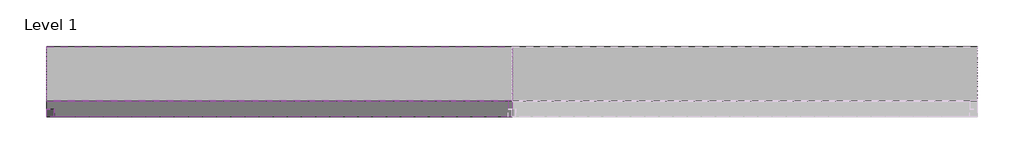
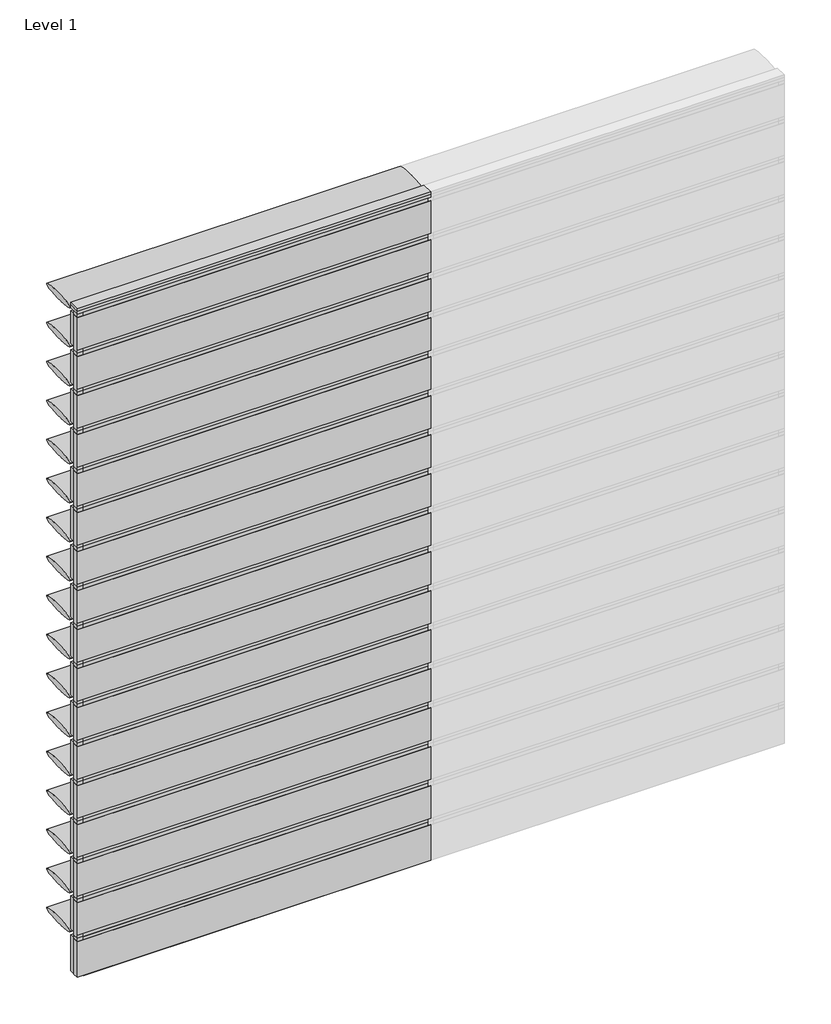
# One storey, part 1 of 2: 42 members, 36 plates.
"""IFC4 building model written with IfcOpenShell, lengths in millimetres."""

from ifc_helpers import new_model, si_unit, origin, place, context, project, spatial, transform, mapped, element, save
from components import rectangular_mullion_7b7f291e, rectangular_mullion_795f5a7c, empty_system_panel_empty_44c4d881, empty_system_panel_empty_7f9a0b37, empty_system_panel_empty_ea27b686, empty_system_panel_empty_a0d4dec4, empty_system_panel_empty_5b0c2a42

model = new_model("IFC4")

# Units and contexts
model_context = context("Model", 3, world=origin())
ifc_project = project(units=[si_unit("LENGTHUNIT", "METRE", prefix="MILLI")], contexts=[model_context])

# Site, building, storey
site = spatial("IfcSite", under=ifc_project)
building = spatial("IfcBuilding", under=site)
storey = spatial("IfcBuildingStorey", under=building, Name="Level 1", Elevation=0.0)

# Members
placement = place(None, origin())
rectangular_mullion_shape = rectangular_mullion_7b7f291e(model_context)
element("IfcMember", 1, ObjectType="Rectangular Mullion : RSen_21_CWM_blade - 350 ellips - 0°_gen_duco projects", at=placement, inside=storey, context=model_context, shape_type="MappedRepresentation", body=[
    mapped(rectangular_mullion_shape, transform((3000.0, 3000.0, 350.0), x_axis=(0.0, 0.0, 1.0), y_axis=(0.0, 1.0, 0.0), z_axis=(-1.0, 0.0, 0.0))),
])
element("IfcMember", 2, ObjectType="Rectangular Mullion : RSen_21_CWM_blade - 350 ellips - 0°_gen_duco projects", at=placement, inside=storey, context=model_context, shape_type="MappedRepresentation", body=[
    mapped(rectangular_mullion_shape, transform((3000.0, 3000.0, 700.0), x_axis=(0.0, 0.0, 1.0), y_axis=(0.0, 1.0, 0.0), z_axis=(-1.0, 0.0, 0.0))),
])
element("IfcMember", 3, ObjectType="Rectangular Mullion : RSen_21_CWM_blade - 350 ellips - 0°_gen_duco projects", at=placement, inside=storey, context=model_context, shape_type="MappedRepresentation", body=[
    mapped(rectangular_mullion_shape, transform((3000.0, 3000.0, 1050.0), x_axis=(0.0, 0.0, 1.0), y_axis=(0.0, 1.0, 0.0), z_axis=(-1.0, 0.0, 0.0))),
])
element("IfcMember", 4, ObjectType="Rectangular Mullion : RSen_21_CWM_blade - 350 ellips - 0°_gen_duco projects", at=placement, inside=storey, context=model_context, shape_type="MappedRepresentation", body=[
    mapped(rectangular_mullion_shape, transform((3000.0, 3000.0, 1400.0), x_axis=(0.0, 0.0, 1.0), y_axis=(0.0, 1.0, 0.0), z_axis=(-1.0, 0.0, 0.0))),
])
element("IfcMember", 5, ObjectType="Rectangular Mullion : RSen_21_CWM_blade - 350 ellips - 0°_gen_duco projects", at=placement, inside=storey, context=model_context, shape_type="MappedRepresentation", body=[
    mapped(rectangular_mullion_shape, transform((3000.0, 3000.0, 1750.0), x_axis=(0.0, 0.0, 1.0), y_axis=(0.0, 1.0, 0.0), z_axis=(-1.0, 0.0, 0.0))),
])
element("IfcMember", 6, ObjectType="Rectangular Mullion : RSen_21_CWM_blade - 350 ellips - 0°_gen_duco projects", at=placement, inside=storey, context=model_context, shape_type="MappedRepresentation", body=[
    mapped(rectangular_mullion_shape, transform((3000.0, 3000.0, 2100.0), x_axis=(0.0, 0.0, 1.0), y_axis=(0.0, 1.0, 0.0), z_axis=(-1.0, 0.0, 0.0))),
])
element("IfcMember", 7, ObjectType="Rectangular Mullion : RSen_21_CWM_blade - 350 ellips - 0°_gen_duco projects", at=placement, inside=storey, context=model_context, shape_type="MappedRepresentation", body=[
    mapped(rectangular_mullion_shape, transform((3000.0, 3000.0, 2450.0), x_axis=(0.0, 0.0, 1.0), y_axis=(0.0, 1.0, 0.0), z_axis=(-1.0, 0.0, 0.0))),
])
element("IfcMember", 8, ObjectType="Rectangular Mullion : RSen_21_CWM_blade - 350 ellips - 0°_gen_duco projects", at=placement, inside=storey, context=model_context, shape_type="MappedRepresentation", body=[
    mapped(rectangular_mullion_shape, transform((3000.0, 3000.0, 2800.0), x_axis=(0.0, 0.0, 1.0), y_axis=(0.0, 1.0, 0.0), z_axis=(-1.0, 0.0, 0.0))),
])
element("IfcMember", 9, ObjectType="Rectangular Mullion : RSen_21_CWM_blade - 350 ellips - 0°_gen_duco projects", at=placement, inside=storey, context=model_context, shape_type="MappedRepresentation", body=[
    mapped(rectangular_mullion_shape, transform((0.0, 3000.0, 350.0), x_axis=(0.0, 0.0, 1.0), y_axis=(0.0, 1.0, 0.0), z_axis=(-1.0, 0.0, 0.0))),
])
element("IfcMember", 10, ObjectType="Rectangular Mullion : RSen_21_CWM_blade - 350 ellips - 0°_gen_duco projects", at=placement, inside=storey, context=model_context, shape_type="MappedRepresentation", body=[
    mapped(rectangular_mullion_shape, transform((0.0, 3000.0, 700.0), x_axis=(0.0, 0.0, 1.0), y_axis=(0.0, 1.0, 0.0), z_axis=(-1.0, 0.0, 0.0))),
])
element("IfcMember", 11, ObjectType="Rectangular Mullion : RSen_21_CWM_blade - 350 ellips - 0°_gen_duco projects", at=placement, inside=storey, context=model_context, shape_type="MappedRepresentation", body=[
    mapped(rectangular_mullion_shape, transform((0.0, 3000.0, 1050.0), x_axis=(0.0, 0.0, 1.0), y_axis=(0.0, 1.0, 0.0), z_axis=(-1.0, 0.0, 0.0))),
])
element("IfcMember", 12, ObjectType="Rectangular Mullion : RSen_21_CWM_blade - 350 ellips - 0°_gen_duco projects", at=placement, inside=storey, context=model_context, shape_type="MappedRepresentation", body=[
    mapped(rectangular_mullion_shape, transform((0.0, 3000.0, 1400.0), x_axis=(0.0, 0.0, 1.0), y_axis=(0.0, 1.0, 0.0), z_axis=(-1.0, 0.0, 0.0))),
])
element("IfcMember", 13, ObjectType="Rectangular Mullion : RSen_21_CWM_blade - 350 ellips - 0°_gen_duco projects", at=placement, inside=storey, context=model_context, shape_type="MappedRepresentation", body=[
    mapped(rectangular_mullion_shape, transform((0.0, 3000.0, 1750.0), x_axis=(0.0, 0.0, 1.0), y_axis=(0.0, 1.0, 0.0), z_axis=(-1.0, 0.0, 0.0))),
])
element("IfcMember", 14, ObjectType="Rectangular Mullion : RSen_21_CWM_blade - 350 ellips - 0°_gen_duco projects", at=placement, inside=storey, context=model_context, shape_type="MappedRepresentation", body=[
    mapped(rectangular_mullion_shape, transform((0.0, 3000.0, 2100.0), x_axis=(0.0, 0.0, 1.0), y_axis=(0.0, 1.0, 0.0), z_axis=(-1.0, 0.0, 0.0))),
])
element("IfcMember", 15, ObjectType="Rectangular Mullion : RSen_21_CWM_blade - 350 ellips - 0°_gen_duco projects", at=placement, inside=storey, context=model_context, shape_type="MappedRepresentation", body=[
    mapped(rectangular_mullion_shape, transform((0.0, 3000.0, 2450.0), x_axis=(0.0, 0.0, 1.0), y_axis=(0.0, 1.0, 0.0), z_axis=(-1.0, 0.0, 0.0))),
])
element("IfcMember", 16, ObjectType="Rectangular Mullion : RSen_21_CWM_blade - 350 ellips - 0°_gen_duco projects", at=placement, inside=storey, context=model_context, shape_type="MappedRepresentation", body=[
    mapped(rectangular_mullion_shape, transform((0.0, 3000.0, 2800.0), x_axis=(0.0, 0.0, 1.0), y_axis=(0.0, 1.0, 0.0), z_axis=(-1.0, 0.0, 0.0))),
])
element("IfcMember", 17, ObjectType="Rectangular Mullion : RSen_21_CWM_blade - 350 ellips - 0°_gen_duco projects", at=placement, inside=storey, context=model_context, shape_type="MappedRepresentation", body=[
    mapped(rectangular_mullion_shape, transform((0.0, 3000.0, 3150.0), x_axis=(0.0, 0.0, 1.0), y_axis=(0.0, 1.0, 0.0), z_axis=(-1.0, 0.0, 0.0))),
])
element("IfcMember", 18, ObjectType="Rectangular Mullion : RSen_21_CWM_blade - 350 ellips - 0°_gen_duco projects", at=placement, inside=storey, context=model_context, shape_type="MappedRepresentation", body=[
    mapped(rectangular_mullion_shape, transform((0.0, 3000.0, 3500.0), x_axis=(0.0, 0.0, 1.0), y_axis=(0.0, 1.0, 0.0), z_axis=(-1.0, 0.0, 0.0))),
])
element("IfcMember", 19, ObjectType="Rectangular Mullion : RSen_21_CWM_blade - 350 ellips - 0°_gen_duco projects", at=placement, inside=storey, context=model_context, shape_type="MappedRepresentation", body=[
    mapped(rectangular_mullion_shape, transform((0.0, 3000.0, 3850.0), x_axis=(0.0, 0.0, 1.0), y_axis=(0.0, 1.0, 0.0), z_axis=(-1.0, 0.0, 0.0))),
])
element("IfcMember", 20, ObjectType="Rectangular Mullion : RSen_21_CWM_blade - 350 ellips - 0°_gen_duco projects", at=placement, inside=storey, context=model_context, shape_type="MappedRepresentation", body=[
    mapped(rectangular_mullion_shape, transform((0.0, 3000.0, 4200.0), x_axis=(0.0, 0.0, 1.0), y_axis=(0.0, 1.0, 0.0), z_axis=(-1.0, 0.0, 0.0))),
])
element("IfcMember", 21, ObjectType="Rectangular Mullion : RSen_21_CWM_blade - 350 ellips - 0°_gen_duco projects", at=placement, inside=storey, context=model_context, shape_type="MappedRepresentation", body=[
    mapped(rectangular_mullion_shape, transform((0.0, 3000.0, 4550.0), x_axis=(0.0, 0.0, 1.0), y_axis=(0.0, 1.0, 0.0), z_axis=(-1.0, 0.0, 0.0))),
])
element("IfcMember", 22, ObjectType="Rectangular Mullion : RSen_21_CWM_blade - 350 ellips - 0°_gen_duco projects", at=placement, inside=storey, context=model_context, shape_type="MappedRepresentation", body=[
    mapped(rectangular_mullion_shape, transform((0.0, 3000.0, 4900.0), x_axis=(0.0, 0.0, 1.0), y_axis=(0.0, 1.0, 0.0), z_axis=(-1.0, 0.0, 0.0))),
])
element("IfcMember", 23, ObjectType="Rectangular Mullion : RSen_21_CWM_blade - 350 ellips - 0°_gen_duco projects", at=placement, inside=storey, context=model_context, shape_type="MappedRepresentation", body=[
    mapped(rectangular_mullion_shape, transform((0.0, 3000.0, 5250.0), x_axis=(0.0, 0.0, 1.0), y_axis=(0.0, 1.0, 0.0), z_axis=(-1.0, 0.0, 0.0))),
])
element("IfcMember", 24, ObjectType="Rectangular Mullion : RSen_21_CWM_blade - 350 ellips - 0°_gen_duco projects", at=placement, inside=storey, context=model_context, shape_type="MappedRepresentation", body=[
    mapped(rectangular_mullion_shape, transform((0.0, 3000.0, 5600.0), x_axis=(0.0, 0.0, 1.0), y_axis=(0.0, 1.0, 0.0), z_axis=(-1.0, 0.0, 0.0))),
])
element("IfcMember", 25, ObjectType="Rectangular Mullion : RSen_21_CWM_blade - 350 ellips - 0°_gen_duco projects", at=placement, inside=storey, context=model_context, shape_type="MappedRepresentation", body=[
    mapped(rectangular_mullion_shape, transform((0.0, 3000.0, 5950.0), x_axis=(0.0, 0.0, 1.0), y_axis=(0.0, 1.0, 0.0), z_axis=(-1.0, 0.0, 0.0))),
])
rectangular_mullion_2_shape = rectangular_mullion_795f5a7c(model_context)
element("IfcMember", 26, ObjectType="Rectangular Mullion : RSen_21_CWM_support profile 50x50 - left_gen_duco projects", at=placement, inside=storey, context=model_context, shape_type="MappedRepresentation", body=[
    mapped(rectangular_mullion_2_shape, transform((0.0, 3000.0, 0.0), x_axis=(-1.0, 0.0, 0.0), y_axis=(0.0, 1.0, 0.0), z_axis=(0.0, 0.0, -1.0))),
])
element("IfcMember", 27, ObjectType="Rectangular Mullion : RSen_21_CWM_support profile 50x50 - left_gen_duco projects", at=placement, inside=storey, context=model_context, shape_type="MappedRepresentation", body=[
    mapped(rectangular_mullion_2_shape, transform((0.0, 3000.0, 350.0), x_axis=(-1.0, 0.0, 0.0), y_axis=(0.0, 1.0, 0.0), z_axis=(0.0, 0.0, -1.0))),
])
element("IfcMember", 28, ObjectType="Rectangular Mullion : RSen_21_CWM_support profile 50x50 - left_gen_duco projects", at=placement, inside=storey, context=model_context, shape_type="MappedRepresentation", body=[
    mapped(rectangular_mullion_2_shape, transform((0.0, 3000.0, 700.0), x_axis=(-1.0, 0.0, 0.0), y_axis=(0.0, 1.0, 0.0), z_axis=(0.0, 0.0, -1.0))),
])
element("IfcMember", 29, ObjectType="Rectangular Mullion : RSen_21_CWM_support profile 50x50 - left_gen_duco projects", at=placement, inside=storey, context=model_context, shape_type="MappedRepresentation", body=[
    mapped(rectangular_mullion_2_shape, transform((0.0, 3000.0, 1050.0), x_axis=(-1.0, 0.0, 0.0), y_axis=(0.0, 1.0, 0.0), z_axis=(0.0, 0.0, -1.0))),
])
element("IfcMember", 30, ObjectType="Rectangular Mullion : RSen_21_CWM_support profile 50x50 - left_gen_duco projects", at=placement, inside=storey, context=model_context, shape_type="MappedRepresentation", body=[
    mapped(rectangular_mullion_2_shape, transform((0.0, 3000.0, 1400.0), x_axis=(-1.0, 0.0, 0.0), y_axis=(0.0, 1.0, 0.0), z_axis=(0.0, 0.0, -1.0))),
])
element("IfcMember", 31, ObjectType="Rectangular Mullion : RSen_21_CWM_support profile 50x50 - left_gen_duco projects", at=placement, inside=storey, context=model_context, shape_type="MappedRepresentation", body=[
    mapped(rectangular_mullion_2_shape, transform((0.0, 3000.0, 1750.0), x_axis=(-1.0, 0.0, 0.0), y_axis=(0.0, 1.0, 0.0), z_axis=(0.0, 0.0, -1.0))),
])
element("IfcMember", 32, ObjectType="Rectangular Mullion : RSen_21_CWM_support profile 50x50 - left_gen_duco projects", at=placement, inside=storey, context=model_context, shape_type="MappedRepresentation", body=[
    mapped(rectangular_mullion_2_shape, transform((0.0, 3000.0, 2100.0), x_axis=(-1.0, 0.0, 0.0), y_axis=(0.0, 1.0, 0.0), z_axis=(0.0, 0.0, -1.0))),
])
element("IfcMember", 33, ObjectType="Rectangular Mullion : RSen_21_CWM_support profile 50x50 - left_gen_duco projects", at=placement, inside=storey, context=model_context, shape_type="MappedRepresentation", body=[
    mapped(rectangular_mullion_2_shape, transform((0.0, 3000.0, 2450.0), x_axis=(-1.0, 0.0, 0.0), y_axis=(0.0, 1.0, 0.0), z_axis=(0.0, 0.0, -1.0))),
])
element("IfcMember", 34, ObjectType="Rectangular Mullion : RSen_21_CWM_support profile 50x50 - left_gen_duco projects", at=placement, inside=storey, context=model_context, shape_type="MappedRepresentation", body=[
    mapped(rectangular_mullion_2_shape, transform((0.0, 3000.0, 2800.0), x_axis=(-1.0, 0.0, 0.0), y_axis=(0.0, 1.0, 0.0), z_axis=(0.0, 0.0, -1.0))),
])
element("IfcMember", 35, ObjectType="Rectangular Mullion : RSen_21_CWM_support profile 50x50 - left_gen_duco projects", at=placement, inside=storey, context=model_context, shape_type="MappedRepresentation", body=[
    mapped(rectangular_mullion_2_shape, transform((0.0, 3000.0, 3150.0), x_axis=(-1.0, 0.0, 0.0), y_axis=(0.0, 1.0, 0.0), z_axis=(0.0, 0.0, -1.0))),
])
element("IfcMember", 36, ObjectType="Rectangular Mullion : RSen_21_CWM_support profile 50x50 - left_gen_duco projects", at=placement, inside=storey, context=model_context, shape_type="MappedRepresentation", body=[
    mapped(rectangular_mullion_2_shape, transform((0.0, 3000.0, 3500.0), x_axis=(-1.0, 0.0, 0.0), y_axis=(0.0, 1.0, 0.0), z_axis=(0.0, 0.0, -1.0))),
])
element("IfcMember", 37, ObjectType="Rectangular Mullion : RSen_21_CWM_support profile 50x50 - left_gen_duco projects", at=placement, inside=storey, context=model_context, shape_type="MappedRepresentation", body=[
    mapped(rectangular_mullion_2_shape, transform((0.0, 3000.0, 3850.0), x_axis=(-1.0, 0.0, 0.0), y_axis=(0.0, 1.0, 0.0), z_axis=(0.0, 0.0, -1.0))),
])
element("IfcMember", 38, ObjectType="Rectangular Mullion : RSen_21_CWM_support profile 50x50 - left_gen_duco projects", at=placement, inside=storey, context=model_context, shape_type="MappedRepresentation", body=[
    mapped(rectangular_mullion_2_shape, transform((0.0, 3000.0, 4200.0), x_axis=(-1.0, 0.0, 0.0), y_axis=(0.0, 1.0, 0.0), z_axis=(0.0, 0.0, -1.0))),
])
element("IfcMember", 39, ObjectType="Rectangular Mullion : RSen_21_CWM_support profile 50x50 - left_gen_duco projects", at=placement, inside=storey, context=model_context, shape_type="MappedRepresentation", body=[
    mapped(rectangular_mullion_2_shape, transform((0.0, 3000.0, 4550.0), x_axis=(-1.0, 0.0, 0.0), y_axis=(0.0, 1.0, 0.0), z_axis=(0.0, 0.0, -1.0))),
])
element("IfcMember", 40, ObjectType="Rectangular Mullion : RSen_21_CWM_support profile 50x50 - left_gen_duco projects", at=placement, inside=storey, context=model_context, shape_type="MappedRepresentation", body=[
    mapped(rectangular_mullion_2_shape, transform((0.0, 3000.0, 4900.0), x_axis=(-1.0, 0.0, 0.0), y_axis=(0.0, 1.0, 0.0), z_axis=(0.0, 0.0, -1.0))),
])
element("IfcMember", 41, ObjectType="Rectangular Mullion : RSen_21_CWM_support profile 50x50 - left_gen_duco projects", at=placement, inside=storey, context=model_context, shape_type="MappedRepresentation", body=[
    mapped(rectangular_mullion_2_shape, transform((0.0, 3000.0, 5250.0), x_axis=(-1.0, 0.0, 0.0), y_axis=(0.0, 1.0, 0.0), z_axis=(0.0, 0.0, -1.0))),
])
element("IfcMember", 42, ObjectType="Rectangular Mullion : RSen_21_CWM_support profile 50x50 - left_gen_duco projects", at=placement, inside=storey, context=model_context, shape_type="MappedRepresentation", body=[
    mapped(rectangular_mullion_2_shape, transform((0.0, 3000.0, 5600.0), x_axis=(-1.0, 0.0, 0.0), y_axis=(0.0, 1.0, 0.0), z_axis=(0.0, 0.0, -1.0))),
])

# Plates
empty_system_panel_empty_shape = empty_system_panel_empty_44c4d881(model_context)
element("IfcPlate", 43, ObjectType="Empty System Panel : Empty", at=placement, inside=storey, context=model_context, shape_type="MappedRepresentation", body=[
    mapped(empty_system_panel_empty_shape, transform((1500.0, 3000.0, 5978.5), x_axis=(-1.0, 0.0, 0.0), y_axis=(0.0, -1.0, 0.0), z_axis=(0.0, 0.0, 1.0))),
])
empty_system_panel_empty_2_shape = empty_system_panel_empty_7f9a0b37(model_context)
element("IfcPlate", 44, ObjectType="Empty System Panel : Empty", at=placement, inside=storey, context=model_context, shape_type="MappedRepresentation", body=[
    mapped(empty_system_panel_empty_2_shape, transform((1500.0, 3000.0, 0.0), x_axis=(-1.0, 0.0, 0.0), y_axis=(0.0, -1.0, 0.0), z_axis=(0.0, 0.0, 1.0))),
])
empty_system_panel_empty_3_shape = empty_system_panel_empty_ea27b686(model_context)
element("IfcPlate", 45, ObjectType="Empty System Panel : Empty", at=placement, inside=storey, context=model_context, shape_type="MappedRepresentation", body=[
    mapped(empty_system_panel_empty_3_shape, transform((1500.0, 3000.0, 378.5), x_axis=(-1.0, 0.0, 0.0), y_axis=(0.0, -1.0, 0.0), z_axis=(0.0, 0.0, 1.0))),
])
element("IfcPlate", 46, ObjectType="Empty System Panel : Empty", at=placement, inside=storey, context=model_context, shape_type="MappedRepresentation", body=[
    mapped(empty_system_panel_empty_3_shape, transform((1500.0, 3000.0, 728.5), x_axis=(-1.0, 0.0, 0.0), y_axis=(0.0, -1.0, 0.0), z_axis=(0.0, 0.0, 1.0))),
])
element("IfcPlate", 47, ObjectType="Empty System Panel : Empty", at=placement, inside=storey, context=model_context, shape_type="MappedRepresentation", body=[
    mapped(empty_system_panel_empty_3_shape, transform((1500.0, 3000.0, 1078.5), x_axis=(-1.0, 0.0, 0.0), y_axis=(0.0, -1.0, 0.0), z_axis=(0.0, 0.0, 1.0))),
])
element("IfcPlate", 48, ObjectType="Empty System Panel : Empty", at=placement, inside=storey, context=model_context, shape_type="MappedRepresentation", body=[
    mapped(empty_system_panel_empty_3_shape, transform((1500.0, 3000.0, 1428.5), x_axis=(-1.0, 0.0, 0.0), y_axis=(0.0, -1.0, 0.0), z_axis=(0.0, 0.0, 1.0))),
])
element("IfcPlate", 49, ObjectType="Empty System Panel : Empty", at=placement, inside=storey, context=model_context, shape_type="MappedRepresentation", body=[
    mapped(empty_system_panel_empty_3_shape, transform((1500.0, 3000.0, 1778.5), x_axis=(-1.0, 0.0, 0.0), y_axis=(0.0, -1.0, 0.0), z_axis=(0.0, 0.0, 1.0))),
])
element("IfcPlate", 50, ObjectType="Empty System Panel : Empty", at=placement, inside=storey, context=model_context, shape_type="MappedRepresentation", body=[
    mapped(empty_system_panel_empty_3_shape, transform((1500.0, 3000.0, 2128.5), x_axis=(-1.0, 0.0, 0.0), y_axis=(0.0, -1.0, 0.0), z_axis=(0.0, 0.0, 1.0))),
])
element("IfcPlate", 51, ObjectType="Empty System Panel : Empty", at=placement, inside=storey, context=model_context, shape_type="MappedRepresentation", body=[
    mapped(empty_system_panel_empty_3_shape, transform((1500.0, 3000.0, 2478.5), x_axis=(-1.0, 0.0, 0.0), y_axis=(0.0, -1.0, 0.0), z_axis=(0.0, 0.0, 1.0))),
])
element("IfcPlate", 52, ObjectType="Empty System Panel : Empty", at=placement, inside=storey, context=model_context, shape_type="MappedRepresentation", body=[
    mapped(empty_system_panel_empty_3_shape, transform((1500.0, 3000.0, 2828.5), x_axis=(-1.0, 0.0, 0.0), y_axis=(0.0, -1.0, 0.0), z_axis=(0.0, 0.0, 1.0))),
])
element("IfcPlate", 53, ObjectType="Empty System Panel : Empty", at=placement, inside=storey, context=model_context, shape_type="MappedRepresentation", body=[
    mapped(empty_system_panel_empty_3_shape, transform((1500.0, 3000.0, 3178.5), x_axis=(-1.0, 0.0, 0.0), y_axis=(0.0, -1.0, 0.0), z_axis=(0.0, 0.0, 1.0))),
])
element("IfcPlate", 54, ObjectType="Empty System Panel : Empty", at=placement, inside=storey, context=model_context, shape_type="MappedRepresentation", body=[
    mapped(empty_system_panel_empty_3_shape, transform((1500.0, 3000.0, 3528.5), x_axis=(-1.0, 0.0, 0.0), y_axis=(0.0, -1.0, 0.0), z_axis=(0.0, 0.0, 1.0))),
])
element("IfcPlate", 55, ObjectType="Empty System Panel : Empty", at=placement, inside=storey, context=model_context, shape_type="MappedRepresentation", body=[
    mapped(empty_system_panel_empty_3_shape, transform((1500.0, 3000.0, 3878.5), x_axis=(-1.0, 0.0, 0.0), y_axis=(0.0, -1.0, 0.0), z_axis=(0.0, 0.0, 1.0))),
])
element("IfcPlate", 56, ObjectType="Empty System Panel : Empty", at=placement, inside=storey, context=model_context, shape_type="MappedRepresentation", body=[
    mapped(empty_system_panel_empty_3_shape, transform((1500.0, 3000.0, 4228.5), x_axis=(-1.0, 0.0, 0.0), y_axis=(0.0, -1.0, 0.0), z_axis=(0.0, 0.0, 1.0))),
])
element("IfcPlate", 57, ObjectType="Empty System Panel : Empty", at=placement, inside=storey, context=model_context, shape_type="MappedRepresentation", body=[
    mapped(empty_system_panel_empty_3_shape, transform((1500.0, 3000.0, 4578.5), x_axis=(-1.0, 0.0, 0.0), y_axis=(0.0, -1.0, 0.0), z_axis=(0.0, 0.0, 1.0))),
])
element("IfcPlate", 58, ObjectType="Empty System Panel : Empty", at=placement, inside=storey, context=model_context, shape_type="MappedRepresentation", body=[
    mapped(empty_system_panel_empty_3_shape, transform((1500.0, 3000.0, 4928.5), x_axis=(-1.0, 0.0, 0.0), y_axis=(0.0, -1.0, 0.0), z_axis=(0.0, 0.0, 1.0))),
])
element("IfcPlate", 59, ObjectType="Empty System Panel : Empty", at=placement, inside=storey, context=model_context, shape_type="MappedRepresentation", body=[
    mapped(empty_system_panel_empty_3_shape, transform((1500.0, 3000.0, 5278.5), x_axis=(-1.0, 0.0, 0.0), y_axis=(0.0, -1.0, 0.0), z_axis=(0.0, 0.0, 1.0))),
])
element("IfcPlate", 60, ObjectType="Empty System Panel : Empty", at=placement, inside=storey, context=model_context, shape_type="MappedRepresentation", body=[
    mapped(empty_system_panel_empty_3_shape, transform((1500.0, 3000.0, 5628.5), x_axis=(-1.0, 0.0, 0.0), y_axis=(0.0, -1.0, 0.0), z_axis=(0.0, 0.0, 1.0))),
])
empty_system_panel_empty_4_shape = empty_system_panel_empty_a0d4dec4(model_context)
element("IfcPlate", 61, ObjectType="Empty System Panel : Empty", at=placement, inside=storey, context=model_context, shape_type="MappedRepresentation", body=[
    mapped(empty_system_panel_empty_4_shape, transform((1512.5, 3000.0, 0.0), x_axis=(-1.0, 0.0, 0.0), y_axis=(0.0, -1.0, 0.0), z_axis=(0.0, 0.0, 1.0))),
])
element("IfcPlate", 62, ObjectType="Empty System Panel : Empty", at=placement, inside=storey, context=model_context, shape_type="MappedRepresentation", body=[
    mapped(empty_system_panel_empty_4_shape, transform((1512.5, 3000.0, 350.0), x_axis=(-1.0, 0.0, 0.0), y_axis=(0.0, -1.0, 0.0), z_axis=(0.0, 0.0, 1.0))),
])
element("IfcPlate", 63, ObjectType="Empty System Panel : Empty", at=placement, inside=storey, context=model_context, shape_type="MappedRepresentation", body=[
    mapped(empty_system_panel_empty_4_shape, transform((1512.5, 3000.0, 700.0), x_axis=(-1.0, 0.0, 0.0), y_axis=(0.0, -1.0, 0.0), z_axis=(0.0, 0.0, 1.0))),
])
element("IfcPlate", 64, ObjectType="Empty System Panel : Empty", at=placement, inside=storey, context=model_context, shape_type="MappedRepresentation", body=[
    mapped(empty_system_panel_empty_4_shape, transform((1512.5, 3000.0, 1050.0), x_axis=(-1.0, 0.0, 0.0), y_axis=(0.0, -1.0, 0.0), z_axis=(0.0, 0.0, 1.0))),
])
element("IfcPlate", 65, ObjectType="Empty System Panel : Empty", at=placement, inside=storey, context=model_context, shape_type="MappedRepresentation", body=[
    mapped(empty_system_panel_empty_4_shape, transform((1512.5, 3000.0, 1400.0), x_axis=(-1.0, 0.0, 0.0), y_axis=(0.0, -1.0, 0.0), z_axis=(0.0, 0.0, 1.0))),
])
element("IfcPlate", 66, ObjectType="Empty System Panel : Empty", at=placement, inside=storey, context=model_context, shape_type="MappedRepresentation", body=[
    mapped(empty_system_panel_empty_4_shape, transform((1512.5, 3000.0, 1750.0), x_axis=(-1.0, 0.0, 0.0), y_axis=(0.0, -1.0, 0.0), z_axis=(0.0, 0.0, 1.0))),
])
element("IfcPlate", 67, ObjectType="Empty System Panel : Empty", at=placement, inside=storey, context=model_context, shape_type="MappedRepresentation", body=[
    mapped(empty_system_panel_empty_4_shape, transform((1512.5, 3000.0, 2100.0), x_axis=(-1.0, 0.0, 0.0), y_axis=(0.0, -1.0, 0.0), z_axis=(0.0, 0.0, 1.0))),
])
element("IfcPlate", 68, ObjectType="Empty System Panel : Empty", at=placement, inside=storey, context=model_context, shape_type="MappedRepresentation", body=[
    mapped(empty_system_panel_empty_4_shape, transform((1512.5, 3000.0, 2450.0), x_axis=(-1.0, 0.0, 0.0), y_axis=(0.0, -1.0, 0.0), z_axis=(0.0, 0.0, 1.0))),
])
element("IfcPlate", 69, ObjectType="Empty System Panel : Empty", at=placement, inside=storey, context=model_context, shape_type="MappedRepresentation", body=[
    mapped(empty_system_panel_empty_4_shape, transform((1512.5, 3000.0, 2800.0), x_axis=(-1.0, 0.0, 0.0), y_axis=(0.0, -1.0, 0.0), z_axis=(0.0, 0.0, 1.0))),
])
element("IfcPlate", 70, ObjectType="Empty System Panel : Empty", at=placement, inside=storey, context=model_context, shape_type="MappedRepresentation", body=[
    mapped(empty_system_panel_empty_4_shape, transform((1512.5, 3000.0, 3150.0), x_axis=(-1.0, 0.0, 0.0), y_axis=(0.0, -1.0, 0.0), z_axis=(0.0, 0.0, 1.0))),
])
element("IfcPlate", 71, ObjectType="Empty System Panel : Empty", at=placement, inside=storey, context=model_context, shape_type="MappedRepresentation", body=[
    mapped(empty_system_panel_empty_4_shape, transform((1512.5, 3000.0, 3500.0), x_axis=(-1.0, 0.0, 0.0), y_axis=(0.0, -1.0, 0.0), z_axis=(0.0, 0.0, 1.0))),
])
element("IfcPlate", 72, ObjectType="Empty System Panel : Empty", at=placement, inside=storey, context=model_context, shape_type="MappedRepresentation", body=[
    mapped(empty_system_panel_empty_4_shape, transform((1512.5, 3000.0, 3850.0), x_axis=(-1.0, 0.0, 0.0), y_axis=(0.0, -1.0, 0.0), z_axis=(0.0, 0.0, 1.0))),
])
element("IfcPlate", 73, ObjectType="Empty System Panel : Empty", at=placement, inside=storey, context=model_context, shape_type="MappedRepresentation", body=[
    mapped(empty_system_panel_empty_4_shape, transform((1512.5, 3000.0, 4200.0), x_axis=(-1.0, 0.0, 0.0), y_axis=(0.0, -1.0, 0.0), z_axis=(0.0, 0.0, 1.0))),
])
element("IfcPlate", 74, ObjectType="Empty System Panel : Empty", at=placement, inside=storey, context=model_context, shape_type="MappedRepresentation", body=[
    mapped(empty_system_panel_empty_4_shape, transform((1512.5, 3000.0, 4550.0), x_axis=(-1.0, 0.0, 0.0), y_axis=(0.0, -1.0, 0.0), z_axis=(0.0, 0.0, 1.0))),
])
element("IfcPlate", 75, ObjectType="Empty System Panel : Empty", at=placement, inside=storey, context=model_context, shape_type="MappedRepresentation", body=[
    mapped(empty_system_panel_empty_4_shape, transform((1512.5, 3000.0, 4900.0), x_axis=(-1.0, 0.0, 0.0), y_axis=(0.0, -1.0, 0.0), z_axis=(0.0, 0.0, 1.0))),
])
element("IfcPlate", 76, ObjectType="Empty System Panel : Empty", at=placement, inside=storey, context=model_context, shape_type="MappedRepresentation", body=[
    mapped(empty_system_panel_empty_4_shape, transform((1512.5, 3000.0, 5250.0), x_axis=(-1.0, 0.0, 0.0), y_axis=(0.0, -1.0, 0.0), z_axis=(0.0, 0.0, 1.0))),
])
element("IfcPlate", 77, ObjectType="Empty System Panel : Empty", at=placement, inside=storey, context=model_context, shape_type="MappedRepresentation", body=[
    mapped(empty_system_panel_empty_4_shape, transform((1512.5, 3000.0, 5600.0), x_axis=(-1.0, 0.0, 0.0), y_axis=(0.0, -1.0, 0.0), z_axis=(0.0, 0.0, 1.0))),
])
empty_system_panel_empty_5_shape = empty_system_panel_empty_5b0c2a42(model_context)
element("IfcPlate", 78, ObjectType="Empty System Panel : Empty", at=placement, inside=storey, context=model_context, shape_type="MappedRepresentation", body=[
    mapped(empty_system_panel_empty_5_shape, transform((1500.0, 3000.0, 5950.0), x_axis=(-1.0, 0.0, 0.0), y_axis=(0.0, -1.0, 0.0), z_axis=(0.0, 0.0, 1.0))),
])

save(model, "model.ifc")
